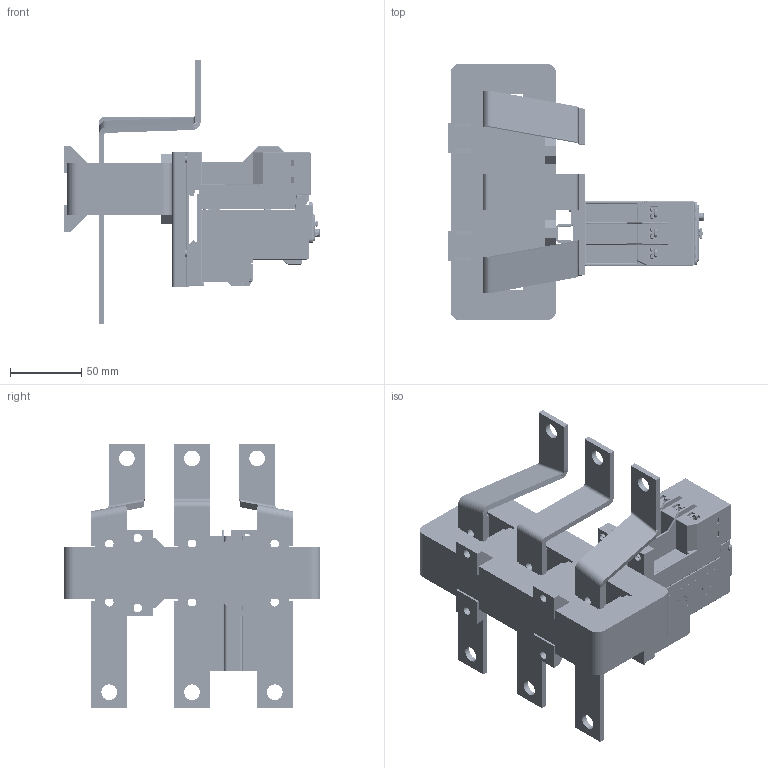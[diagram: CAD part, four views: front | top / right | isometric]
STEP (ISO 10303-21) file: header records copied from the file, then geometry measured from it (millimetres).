
FILE_DESCRIPTION(/* description */ (''),/* implementation_level */ '2;1');
FILE_NAME(/* name */ 'HGT265AF.stp',/* time_stamp */ '2017-12-06T11:48:52+09:00',/* author */ (''),/* organization */ (''),/* preprocessor_version */ 'ST-DEVELOPER v15',/* originating_system */ 'SIEMENS PLM Software NX 9.0',/* authorisation */ '');
FILE_SCHEMA (('CONFIG_CONTROL_DESIGN'));
Products named in the file (1): HGT265AF
Bounding box: 178.85 x 180 x 185 mm (x, y, z)
Volume: 608775.8 mm3; surface area: 251042.6 mm2
Topology: 44 solids, 44 shells, 8239 faces, 22647 edges, 14681 vertices
Faces by surface type: plane 5734, cylinder 1800, bspline 342, torus 150, cone 101, extrusion 64, sphere 48
Full cylindrical faces by diameter (mm): 1.8 x6, 2.1 x1, 2.4 x1, 2.5 x1, 3 x14, 4 x7, 5 x12, 5.5 x2, 5.7 x1, 6 x10, 6.5 x1, 6.7 x5, 6.8 x4, 7 x1, 8 x7, 11 x6, 12 x1
Entity records: 295276 total; most frequent: CARTESIAN_POINT 87404, ORIENTED_EDGE 44972, DIRECTION 40543, EDGE_CURVE 22486, VECTOR 16883, LINE 16819, VERTEX_POINT 14638, AXIS2_PLACEMENT_3D 11830
